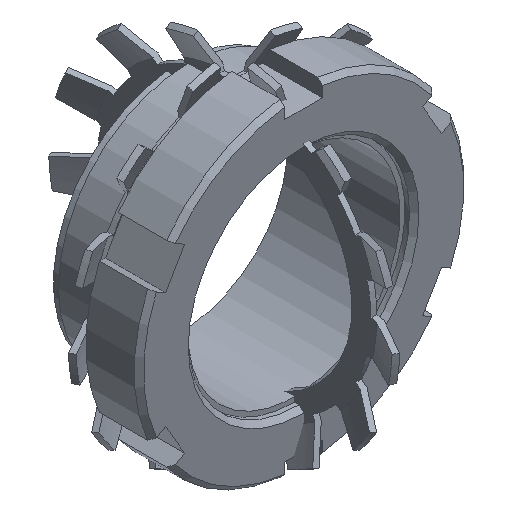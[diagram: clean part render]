
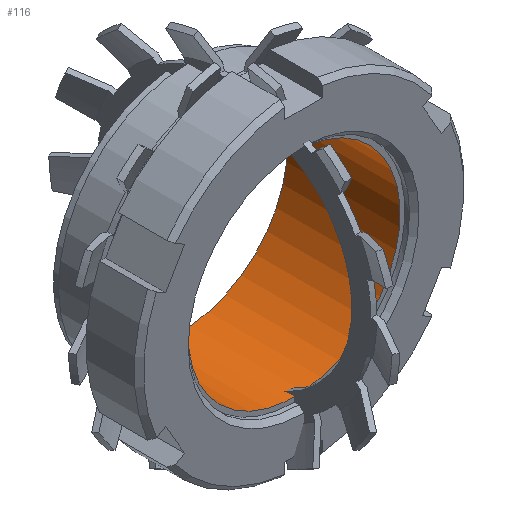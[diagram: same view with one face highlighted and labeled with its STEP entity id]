
A CAD part, isometric view. The second image highlights one B-rep face of the part: STEP entity #116.
In plain terms, the highlighted cylindrical face has radius 22.5 mm (diameter 45 mm), a partial arc.
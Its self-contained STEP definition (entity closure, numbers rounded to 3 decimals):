
#116 = ADVANCED_FACE( '', ( #247 ), #248, .F. );
#247 = FACE_OUTER_BOUND( '', #407, .T. );
#248 = CYLINDRICAL_SURFACE( '', #408, 22.5 );
#407 = EDGE_LOOP( '', ( #713, #714, #715, #716 ) );
#408 = AXIS2_PLACEMENT_3D( '', #717, #718, #719 );
#713 = ORIENTED_EDGE( '', *, *, #1264, .F. );
#714 = ORIENTED_EDGE( '', *, *, #1265, .F. );
#715 = ORIENTED_EDGE( '', *, *, #1266, .T. );
#716 = ORIENTED_EDGE( '', *, *, #1267, .T. );
#717 = CARTESIAN_POINT( '', ( 0., -60., 0. ) );
#718 = DIRECTION( '', ( 0., 1., 0. ) );
#719 = DIRECTION( '', ( 0., 0., -1. ) );
#1264 = EDGE_CURVE( '', #1650, #1651, #1652, .T. );
#1265 = EDGE_CURVE( '', #1653, #1650, #1654, .T. );
#1266 = EDGE_CURVE( '', #1653, #1655, #1656, .T. );
#1267 = EDGE_CURVE( '', #1655, #1651, #1657, .T. );
#1650 = VERTEX_POINT( '', #2718 );
#1651 = VERTEX_POINT( '', #2719 );
#1652 = LINE( '', #2720, #2721 );
#1653 = VERTEX_POINT( '', #2722 );
#1654 = CIRCLE( '', #2723, 22.5 );
#1655 = VERTEX_POINT( '', #2724 );
#1656 = LINE( '', #2725, #2726 );
#1657 = CIRCLE( '', #2727, 22.5 );
#2718 = CARTESIAN_POINT( '', ( 3., 11.25, 22.299 ) );
#2719 = CARTESIAN_POINT( '', ( 3., -12.75, 22.299 ) );
#2720 = CARTESIAN_POINT( '', ( 3., -60., 22.299 ) );
#2721 = VECTOR( '', #3279, 1000. );
#2722 = CARTESIAN_POINT( '', ( -3., 11.25, 22.299 ) );
#2723 = AXIS2_PLACEMENT_3D( '', #3280, #3281, #3282 );
#2724 = CARTESIAN_POINT( '', ( -3., -12.75, 22.299 ) );
#2725 = CARTESIAN_POINT( '', ( -3., -60., 22.299 ) );
#2726 = VECTOR( '', #3283, 1000. );
#2727 = AXIS2_PLACEMENT_3D( '', #3284, #3285, #3286 );
#3279 = DIRECTION( '', ( 0., -1., 0. ) );
#3280 = CARTESIAN_POINT( '', ( 0., 11.25, 0. ) );
#3281 = DIRECTION( '', ( 0., -1., 0. ) );
#3282 = DIRECTION( '', ( 0., 0., -1. ) );
#3283 = DIRECTION( '', ( 0., -1., 0. ) );
#3284 = CARTESIAN_POINT( '', ( 0., -12.75, 0. ) );
#3285 = DIRECTION( '', ( 0., -1., 0. ) );
#3286 = DIRECTION( '', ( 0., 0., -1. ) );
